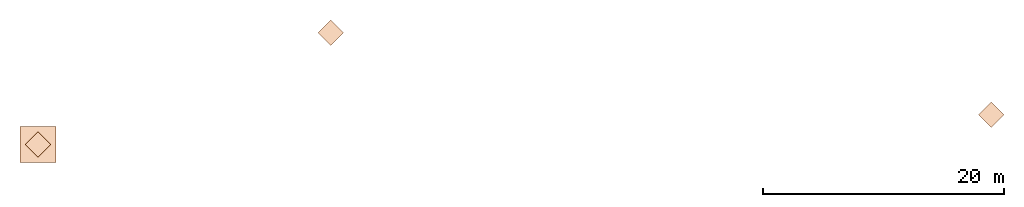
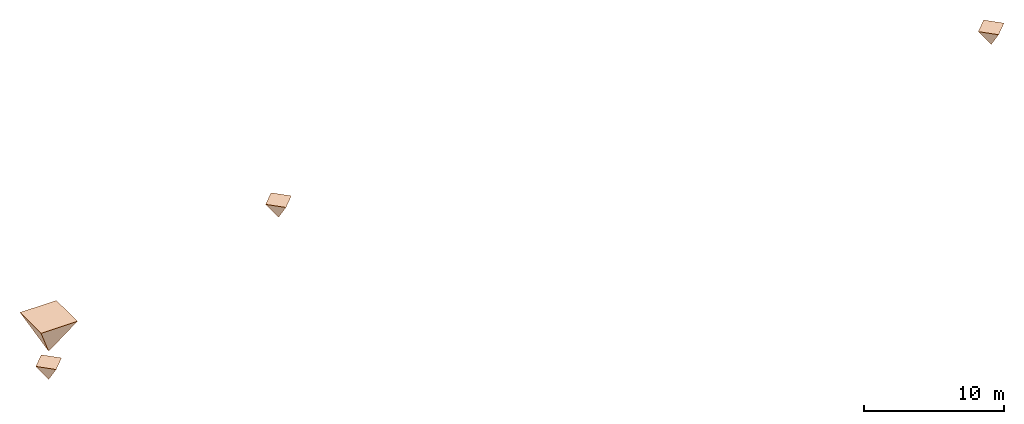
# Not in any storey: 4 geographic elements.
"""IFC4 building model written with IfcOpenShell, lengths in metres."""

from ifc_helpers import new_model, entity, si_unit, converted_unit, derived_unit, frame, origin, place, context, subcontext, project, spatial, faceted_brep, element, save


model = new_model("IFC4")

# Units and contexts
model_context = context("Model", 3, precision=1e-05, world=origin())
plan_context = context("Plan", 2, precision=1e-05, world=origin())
body_context = subcontext(model_context, "Body", "Model", "MODEL_VIEW")
ifc_project = project(units=[si_unit("LENGTHUNIT", "METRE"), si_unit("AREAUNIT", "SQUARE_METRE"), si_unit("VOLUMEUNIT", "CUBIC_METRE"), si_unit("MASSUNIT", "GRAM", prefix="KILO"), converted_unit("PLANEANGLEUNIT", "DEGREE", entity("IfcPlaneAngleMeasure", 0.0174532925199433), si_unit("PLANEANGLEUNIT", "RADIAN"), dimensions=[0, 0, 0, 0, 0, 0, 0]), derived_unit("THERMALTRANSMITTANCEUNIT", [(si_unit("POWERUNIT", "WATT"), 1), (si_unit("THERMODYNAMICTEMPERATUREUNIT", "KELVIN"), -1), (si_unit("LENGTHUNIT", "METRE"), -2)]), derived_unit("VOLUMETRICFLOWRATEUNIT", [(si_unit("LENGTHUNIT", "METRE"), 3), (converted_unit("TIMEUNIT", "hour", entity("IfcTimeMeasure", 3600.0), si_unit("TIMEUNIT", "SECOND"), dimensions=[0, 0, 1, 0, 0, 0, 0]), -1), (si_unit("LENGTHUNIT", "METRE"), -1)])], contexts=[model_context, plan_context])

# Site
site_placement = place(None, origin())
site = spatial("IfcSite", under=ifc_project, at=site_placement, Name="Site", CompositionType="ELEMENT")

# Geographic element
geographic_element_1_placement = place(site_placement, frame((-1.5, -1.5, 2.45)))
element("IfcGeographicElement", 1, at=geographic_element_1_placement, inside=site, Name="GlobalLambert72Ref", PredefinedType="USERDEFINED", context=body_context, shape_type="Brep", body=[
    faceted_brep([(0.0, 0.0, 3.0), (0.0, 3.0, 3.0), (3.0, 3.0, 3.0), (3.0, 0.0, 3.0), (1.5, 1.5, 0.0)], [[[0, 1, 2, 3]], [[4, 0, 3]], [[2, 1, 4]], [[4, 1, 0]], [[4, 3, 2]]], orient=[[False], [False], [False], [False], [False]]),
])

# Building
building_1_placement = place(site_placement, origin())
building_1 = spatial("IfcBuilding", under=site, at=building_1_placement, Name="Admin", CompositionType="ELEMENT")

# Geographic element
geographic_element_2_placement = place(building_1_placement, frame((23.2393284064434, 8.2093398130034, 9.0951551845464e-18)))
element("IfcGeographicElement", 2, at=geographic_element_2_placement, inside=building_1, Name="Ref-Admin", PredefinedType="USERDEFINED", context=body_context, shape_type="Brep", body=[
    faceted_brep([(0.0, 1.06066017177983, 1.5), (1.06066017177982, 2.12132034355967, 1.5), (2.12132034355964, 1.06066017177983, 1.5), (1.06066017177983, 0.0, 1.5), (1.06066017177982, 1.06066017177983, -9.0951551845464e-18)], [[[0, 1, 2, 3]], [[4, 0, 3]], [[2, 1, 4]], [[4, 1, 0]], [[4, 3, 2]]], orient=[[False], [False], [False], [False], [False]]),
])

# Building
building_2_placement = place(site_placement, origin())
building_2 = spatial("IfcBuilding", under=site, at=building_2_placement, Name="Auditorium", CompositionType="ELEMENT")

# Geographic element
geographic_element_3_placement = place(building_2_placement, frame((-1.06066017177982, -1.06066017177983, 9.0951551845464e-18)))
element("IfcGeographicElement", 3, at=geographic_element_3_placement, inside=building_2, Name="RefAuditorium", PredefinedType="USERDEFINED", context=body_context, shape_type="Brep", body=[
    faceted_brep([(0.0, 1.06066017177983, 1.5), (1.06066017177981, 2.12132034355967, 1.5), (2.12132034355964, 1.06066017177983, 1.5), (1.06066017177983, 0.0, 1.5), (1.06066017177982, 1.06066017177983, -9.0951551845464e-18)], [[[0, 1, 2, 3]], [[4, 0, 3]], [[2, 1, 4]], [[4, 1, 0]], [[4, 3, 2]]], orient=[[False], [False], [False], [False], [False]]),
])

# Building
building_3_placement = place(site_placement, origin())
building_3 = spatial("IfcBuilding", under=site, at=building_3_placement, Name="PosteGarde", CompositionType="ELEMENT")

# Geographic element
geographic_element_4_placement = place(building_3_placement, frame((78.0647080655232, 1.38894970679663, 9.0951551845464e-18)))
element("IfcGeographicElement", 4, at=geographic_element_4_placement, inside=building_3, Name="RefGarde", PredefinedType="USERDEFINED", context=body_context, shape_type="Brep", body=[
    faceted_brep([(0.0, 1.06066017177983, 1.5), (1.06066017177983, 2.12132034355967, 1.5), (2.12132034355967, 1.06066017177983, 1.5), (1.06066017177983, 0.0, 1.5), (1.06066017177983, 1.06066017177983, -9.0951551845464e-18)], [[[0, 1, 2, 3]], [[4, 0, 3]], [[2, 1, 4]], [[4, 1, 0]], [[4, 3, 2]]], orient=[[False], [False], [False], [False], [False]]),
])

save(model, "model.ifc")
